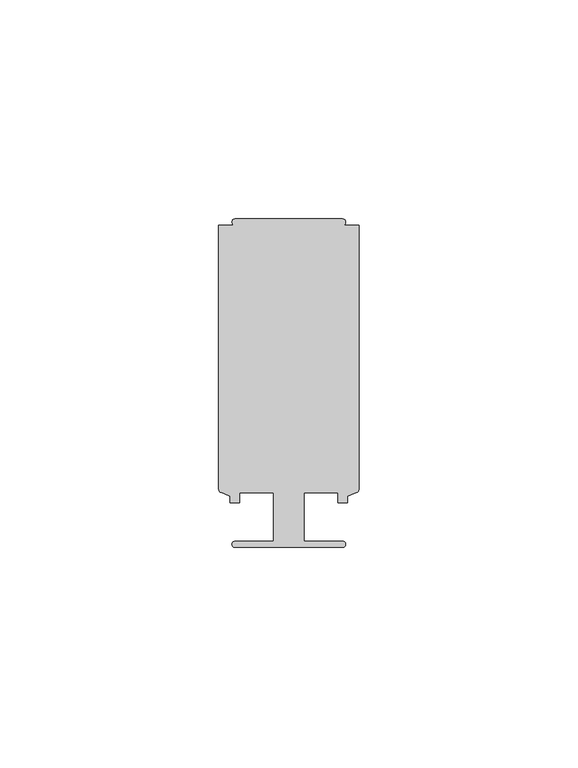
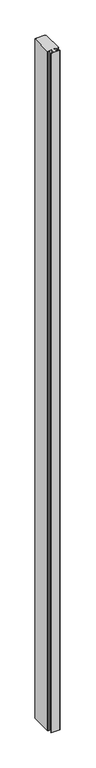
"""IFC4 building model written with IfcOpenShell, lengths in millimetres: member geometry, Прямоугольный импост : 2-AMG-1-Профиль 26Х75 Средний."""

from ifc_helpers import new_model, si_unit, point, frame, frame_2d, origin, place, context, project, spatial, polyline, circle_curve, trimmed, segment, composite_curve, outline, extrude, source, transform, mapped, element, save


def member_7c3dce96(model_context):
    return source(origin(), model_context, "Body", "SweptSolid", [
        extrude(outline(composite_curve([segment(polyline([(12.2976562, -37.5), (-12.3023438, -37.5)]), True, "CONTINUOUS"), segment(trimmed(circle_curve(frame_2d((-12.3023438, -36.8)), 0.7), [point((-12.3023438, -37.5))], [point((-12.3023438, -36.1))], False, "CARTESIAN"), True, "CONTINUOUS"), segment(polyline([(-12.3023438, -36.1), (-3.5023438, -36.1), (-3.5023438, -25.0), (-11.2993767, -25.0), (-11.2993767, -27.25), (-13.4493278, -27.25), (-13.4493278, -25.836597), (-15.5219415, -24.9333875)]), True, "CONTINUOUS"), segment(trimmed(circle_curve(frame_2d((-15.2023438, -24.2)), 0.8), [point((-15.5219415, -24.9333875))], [point((-16.0023438, -24.2))], False, "CARTESIAN"), True, "CONTINUOUS"), segment(polyline([(-16.0023438, -24.2), (-16.0023438, 36.1), (-12.3004766, 36.1)]), True, "CONTINUOUS"), segment(trimmed(circle_curve(frame_2d((-12.3004766, 36.8)), 0.7), [point((-12.3004766, 36.1))], [point((-12.3004766, 37.5))], False, "CARTESIAN"), True, "CONTINUOUS"), segment(polyline([(-12.3004766, 37.5), (12.295789, 37.5)]), True, "CONTINUOUS"), segment(trimmed(circle_curve(frame_2d((12.295789, 36.8)), 0.7), [point((12.295789, 37.5))], [point((12.295789, 36.1))], False, "CARTESIAN"), True, "CONTINUOUS"), segment(polyline([(12.295789, 36.1), (15.9976562, 36.1), (15.9976562, -24.2)]), True, "CONTINUOUS"), segment(trimmed(circle_curve(frame_2d((15.1976562, -24.2)), 0.8), [point((15.9976562, -24.2))], [point((15.5172539, -24.9333875))], False, "CARTESIAN"), True, "CONTINUOUS"), segment(polyline([(15.5172539, -24.9333875), (13.4446403, -25.836597), (13.4446403, -27.25), (11.2193767, -27.25), (11.2193767, -25.0), (3.4976562, -25.0), (3.4976562, -36.1), (12.2976562, -36.1)]), True, "CONTINUOUS"), segment(trimmed(circle_curve(frame_2d((12.2976562, -36.8)), 0.7), [point((12.2976562, -36.1))], [point((12.2976562, -37.5))], False, "CARTESIAN"), True, "CONTINUOUS")], self_intersect=False)), frame((0.0, 0.0, -2042.8976562), z_axis=(0.0, 0.0, 1.0), x_axis=(1.0, 0.0, 0.0)), (0.0, 0.0, 1.0), 2042.8976562),
    ])


if __name__ == "__main__":
    model = new_model("IFC4")
    model_context = context("Model", 3, world=origin())
    ifc_project = project(units=[si_unit("LENGTHUNIT", "METRE", prefix="MILLI")], contexts=[model_context])
    site = spatial("IfcSite", under=ifc_project)
    building = spatial("IfcBuilding", under=site)
    placement = place(None, origin())
    member_shape = member_7c3dce96(model_context)
    element("IfcMember", 1, ObjectType="Прямоугольный импост : 2-AMG-1-Профиль 26Х75 Средний", at=placement, inside=building, context=model_context, shape_type="MappedRepresentation", body=[
        mapped(member_shape, transform((0.0, 0.0, 0.0), x_axis=(1.0, 0.0, 0.0), y_axis=(0.0, 1.0, 0.0), z_axis=(0.0, 0.0, 1.0))),
    ])
    save(model, "model.ifc")
